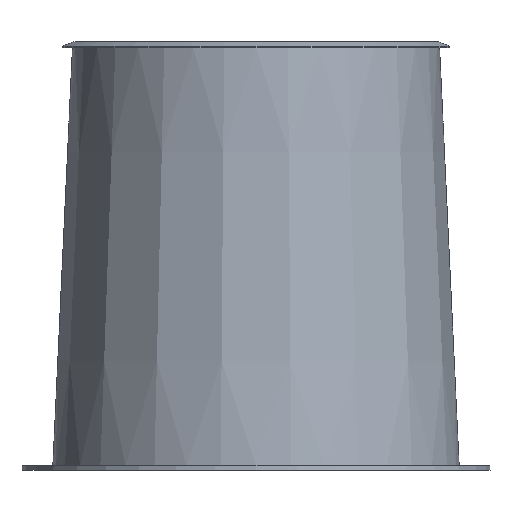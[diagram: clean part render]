
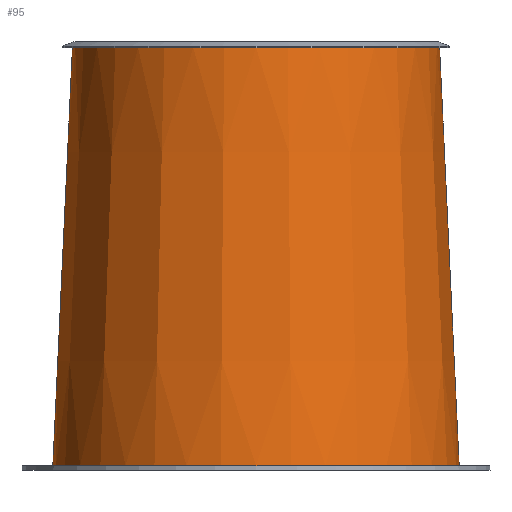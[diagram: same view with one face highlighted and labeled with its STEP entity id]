
A CAD part, front view. The second image highlights one B-rep face of the part: STEP entity #95.
In plain terms, the highlighted conical face has half-angle 2.682 degrees and reference radius 128.05 mm.
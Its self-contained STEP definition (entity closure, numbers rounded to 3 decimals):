
#22=CONICAL_SURFACE('',#120,128.05,0.047);
#31=ORIENTED_EDGE('',*,*,#42,.T.);
#32=ORIENTED_EDGE('',*,*,#41,.F.);
#41=EDGE_CURVE('',#48,#48,#55,.T.);
#42=EDGE_CURVE('',#49,#49,#56,.T.);
#48=VERTEX_POINT('',#171);
#49=VERTEX_POINT('',#174);
#55=CIRCLE('',#119,128.05);
#56=CIRCLE('',#121,141.712);
#66=EDGE_LOOP('',(#31));
#67=EDGE_LOOP('',(#32));
#80=FACE_BOUND('',#66,.T.);
#81=FACE_BOUND('',#67,.T.);
#95=ADVANCED_FACE('',(#80,#81),#22,.T.);
#119=AXIS2_PLACEMENT_3D('',#170,#143,#144);
#120=AXIS2_PLACEMENT_3D('',#172,#145,#146);
#121=AXIS2_PLACEMENT_3D('',#173,#147,#148);
#143=DIRECTION('',(0.,0.,1.));
#144=DIRECTION('',(1.,0.,0.));
#145=DIRECTION('',(0.,0.,-1.));
#146=DIRECTION('',(-1.,0.,0.));
#147=DIRECTION('',(0.,0.,1.));
#148=DIRECTION('',(1.,0.,0.));
#170=CARTESIAN_POINT('',(0.,0.,145.35));
#171=CARTESIAN_POINT('',(128.05,0.,145.35));
#172=CARTESIAN_POINT('',(0.,0.,145.35));
#173=CARTESIAN_POINT('',(0.,0.,-146.263));
#174=CARTESIAN_POINT('',(141.712,0.,-146.263));
